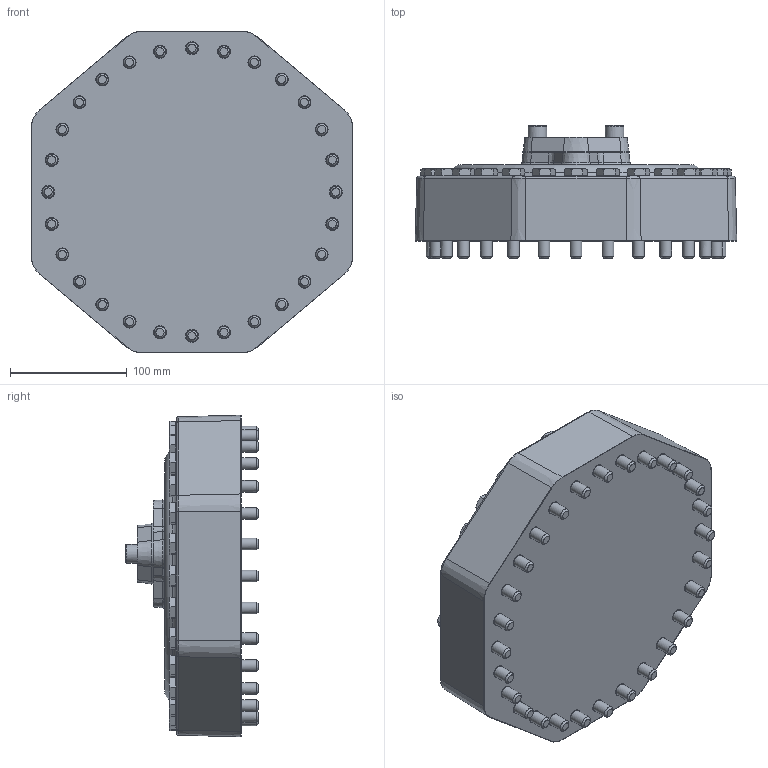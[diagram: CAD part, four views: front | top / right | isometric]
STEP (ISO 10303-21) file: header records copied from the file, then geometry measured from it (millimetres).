
FILE_DESCRIPTION(/* description */ (''),/* implementation_level */ '2;1');
FILE_NAME(/* name */ '4JTEU-4HTEU-4GTEU20-4FTEU20.stp',/* time_stamp */ '2023-11-09T10:21:05+01:00',/* author */ (''),/* organization */ (''),/* preprocessor_version */ 'ST-DEVELOPER v19.3',/* originating_system */ 'SIEMENS PLM Software NX2212.3001',/* authorisation */ '');
FILE_SCHEMA (('AUTOMOTIVE_DESIGN { 1 0 10303 214 3 1 1 1 }'));
Length unit declared in the file: millimetre
Products named in the file (3): BLIND-FLANGE-OVAL; HOUSING-COVER-CKH4-FLAT-ROUND; 4JTEU-4HTEU-4GTEU20-4FTEU20
Assembly tree (2 placements, depth 2):
  4JTEU-4HTEU-4GTEU20-4FTEU20
    HOUSING-COVER-CKH4-FLAT-ROUND
    BLIND-FLANGE-OVAL
Bounding box: 275 x 113.5 x 275 mm (x, y, z)
Volume: 3950277.3 mm3; surface area: 232954.7 mm2
Topology: 4 solids, 4 shells, 739 faces, 1623 edges, 1020 vertices
Faces by surface type: plane 340, cone 219, cylinder 104, torus 76
Full cylindrical faces by diameter (mm): 8.985 x4, 10 x30, 11 x30, 16 x2, 28 x1, 29.5 x1, 30 x1, 32 x1, 34.5 x1, 38 x1
Entity records: 24047 total; most frequent: CARTESIAN_POINT 4182, DIRECTION 3100, ORIENTED_EDGE 2800, EDGE_CURVE 1400, AXIS2_PLACEMENT_3D 1302, EDGE_LOOP 1036, VERTEX_POINT 960, ADVANCED_FACE 739
